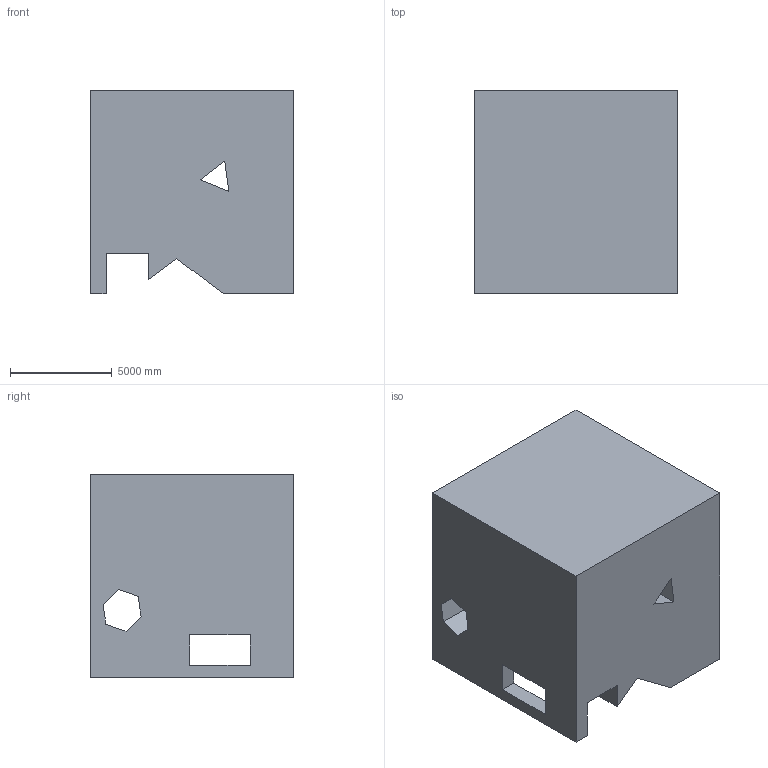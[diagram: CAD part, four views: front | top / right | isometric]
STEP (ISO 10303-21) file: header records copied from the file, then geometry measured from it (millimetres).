
FILE_DESCRIPTION (( 'STEP AP203' ), '1' );
FILE_NAME ('89.STEP', '2022-08-31T11:29:59', ( 'user' ), ( '' ), 'SwSTEP 2.0', 'SolidWorks 2021', '' );
FILE_SCHEMA (( 'CONFIG_CONTROL_DESIGN' ));
Length unit declared in the file: centimetre
Products named in the file (1): 89
Bounding box: 10000 x 10000 x 10000 mm (x, y, z)
Volume: 853976817198.6 mm3; surface area: 757454772 mm2
Topology: 1 solids, 1 shells, 29 faces, 87 edges, 58 vertices
Faces by surface type: plane 29
Entity records: 1054 total; most frequent: CARTESIAN_POINT 175, ORIENTED_EDGE 174, DIRECTION 147, VECTOR 87, EDGE_CURVE 87, LINE 87, VERTEX_POINT 58, EDGE_LOOP 35
